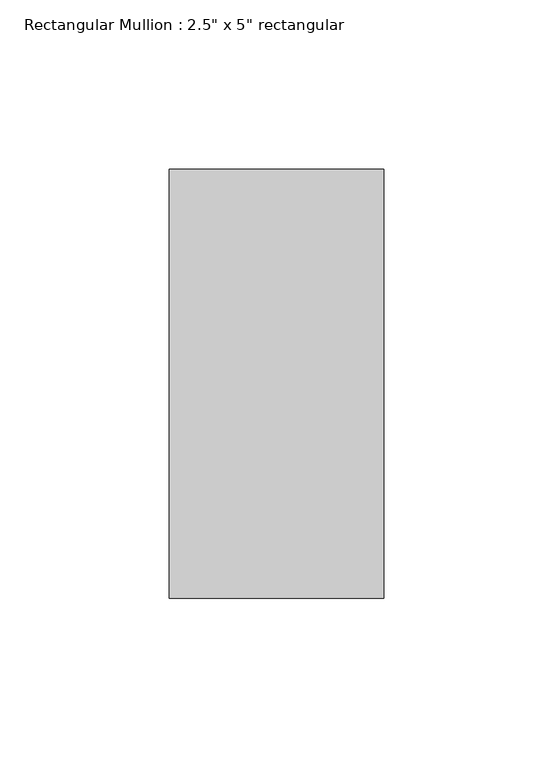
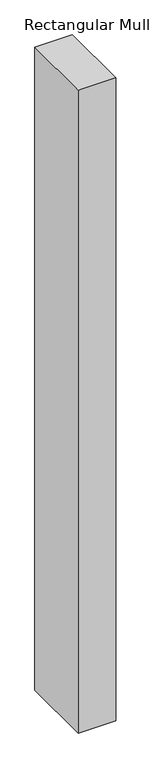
"""IFC4 building model written with IfcOpenShell, lengths in millimetres: member geometry."""

from ifc_helpers import new_model, si_unit, frame, origin, place, context, project, spatial, polyline, outline, extrude, source, transform, mapped, element, save


def member_4a57880f(model_context):
    return source(origin(), model_context, "Body", "SweptSolid", [
        extrude(outline(polyline([(31.75, 63.5), (31.75, -63.5), (-31.75, -63.5), (-31.75, 63.5), (31.75, 63.5)])), frame((0.0, 0.0, -1149.35), z_axis=(0.0, 0.0, 1.0), x_axis=(1.0, 0.0, 0.0)), (0.0, 0.0, 1.0), 1149.35),
    ])


if __name__ == "__main__":
    model = new_model("IFC4")
    model_context = context("Model", 3, world=origin())
    ifc_project = project(units=[si_unit("LENGTHUNIT", "METRE", prefix="MILLI")], contexts=[model_context])
    site = spatial("IfcSite", under=ifc_project)
    building = spatial("IfcBuilding", under=site)
    placement = place(None, origin())
    member_shape = member_4a57880f(model_context)
    element("IfcMember", 1, ObjectType="Rectangular Mullion : 2.5\" x 5\" rectangular", at=placement, inside=building, context=model_context, shape_type="MappedRepresentation", body=[
        mapped(member_shape, transform((0.0, 0.0, 0.0), x_axis=(1.0, 0.0, 0.0), y_axis=(0.0, 1.0, 0.0), z_axis=(0.0, 0.0, 1.0))),
    ])
    save(model, "model.ifc")
